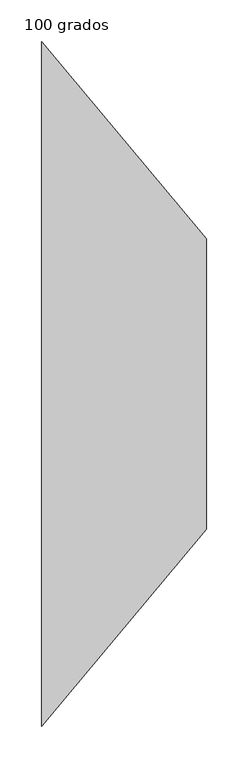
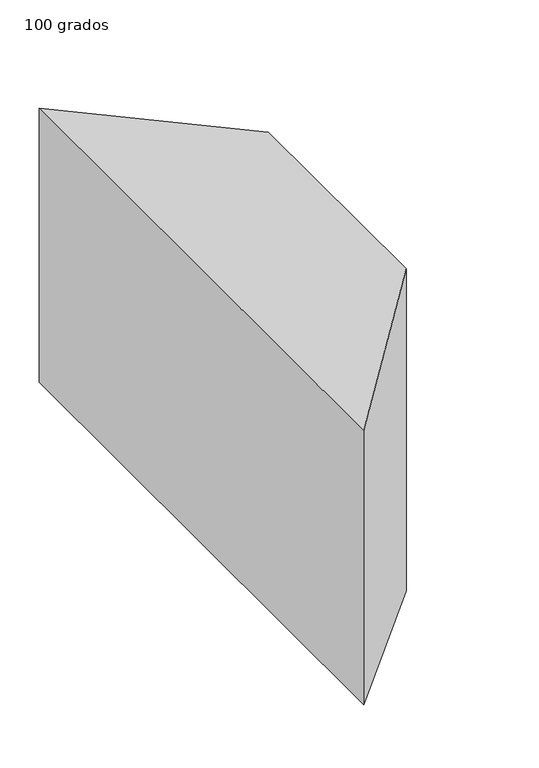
"""IFC4 building model written with IfcOpenShell, lengths in millimetres: duct fitting geometry, M_Transición rectangular - Ángulo : 100 grados."""

from ifc_helpers import new_model, si_unit, origin, place, context, project, spatial, faceted_brep, source, transform, mapped, element, save


def duct_fitting_100_grados_e51cb6c2(model_context):
    return source(origin(), model_context, "Body", "Brep", [
        faceted_brep([(199.2861624, -175.0, 250.0), (199.2861624, -175.0, -250.0), (199.2861624, 175.0, -250.0), (199.2861624, 175.0, 250.0), (0.0, -412.5, 212.5), (0.0, 412.5, 212.5), (0.0, 412.5, -212.5), (0.0, -412.5, -212.5)], [[[0, 1, 2, 3]], [[4, 5, 6, 7]], [[4, 7, 1, 0]], [[7, 6, 2, 1]], [[6, 5, 3, 2]], [[5, 4, 0, 3]]]),
    ])


if __name__ == "__main__":
    model = new_model("IFC4")
    model_context = context("Model", 3, world=origin())
    ifc_project = project(units=[si_unit("LENGTHUNIT", "METRE", prefix="MILLI")], contexts=[model_context])
    site = spatial("IfcSite", under=ifc_project)
    building = spatial("IfcBuilding", under=site)
    placement = place(None, origin())
    duct_fitting_100_grados_shape = duct_fitting_100_grados_e51cb6c2(model_context)
    element("IfcDuctFitting", 1, ObjectType="M_Transición rectangular - Ángulo : 100 grados", at=placement, inside=building, context=model_context, shape_type="MappedRepresentation", body=[
        mapped(duct_fitting_100_grados_shape, transform((0.0, 0.0, 0.0), x_axis=(1.0, 0.0, 0.0), y_axis=(0.0, 1.0, 0.0), z_axis=(0.0, 0.0, 1.0))),
    ])
    save(model, "model.ifc")
